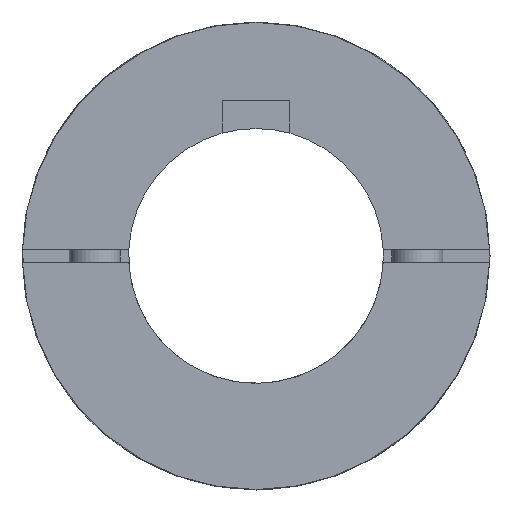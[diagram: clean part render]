
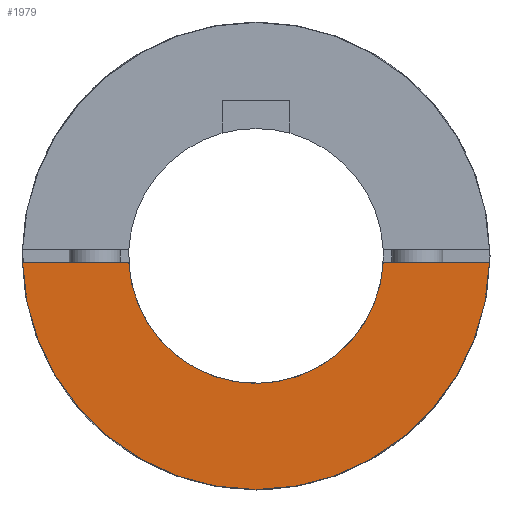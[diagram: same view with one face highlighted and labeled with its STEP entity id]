
A CAD part, left-side view. The second image highlights one B-rep face of the part: STEP entity #1979.
In plain terms, the highlighted planar face has unit normal (-1, 0, 0).
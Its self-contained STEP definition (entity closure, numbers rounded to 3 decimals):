
#47=PLANE('',#2240);
#197=LINE('',#3602,#340);
#209=LINE('',#3629,#352);
#340=VECTOR('',#2681,22.546);
#352=VECTOR('',#2713,22.546);
#523=FACE_OUTER_BOUND('',#657,.T.);
#657=EDGE_LOOP('',(#1694,#1695,#1696,#1697));
#846=CIRCLE('',#2204,15.);
#850=CIRCLE('',#2241,27.5);
#981=VERTEX_POINT('',#3557);
#982=VERTEX_POINT('',#3558);
#994=VERTEX_POINT('',#3600);
#999=VERTEX_POINT('',#3628);
#1214=EDGE_CURVE('',#981,#982,#846,.T.);
#1236=EDGE_CURVE('',#994,#982,#197,.T.);
#1250=EDGE_CURVE('',#999,#981,#209,.T.);
#1274=EDGE_CURVE('',#994,#999,#850,.T.);
#1694=ORIENTED_EDGE('',*,*,#1214,.T.);
#1695=ORIENTED_EDGE('',*,*,#1236,.F.);
#1696=ORIENTED_EDGE('',*,*,#1274,.T.);
#1697=ORIENTED_EDGE('',*,*,#1250,.T.);
#1979=ADVANCED_FACE('',(#523),#47,.T.);
#2204=AXIS2_PLACEMENT_3D('',#3559,#2639,#2640);
#2240=AXIS2_PLACEMENT_3D('',#3681,#2767,#2768);
#2241=AXIS2_PLACEMENT_3D('',#3682,#2769,#2770);
#2639=DIRECTION('center_axis',(1.,0.,0.));
#2640=DIRECTION('ref_axis',(0.,0.,1.));
#2681=DIRECTION('',(0.,-1.,0.));
#2713=DIRECTION('',(0.,1.,0.));
#2767=DIRECTION('center_axis',(-1.,0.,0.));
#2768=DIRECTION('ref_axis',(0.,-1.,0.));
#2769=DIRECTION('center_axis',(-1.,0.,0.));
#2770=DIRECTION('ref_axis',(0.,1.,0.));
#3557=CARTESIAN_POINT('',(0.,-14.981,-0.75));
#3558=CARTESIAN_POINT('',(0.,14.981,-0.75));
#3559=CARTESIAN_POINT('Origin',(0.,0.,0.));
#3600=CARTESIAN_POINT('',(0.,27.49,-0.75));
#3602=CARTESIAN_POINT('',(0.,27.49,-0.75));
#3628=CARTESIAN_POINT('',(0.,-27.49,-0.75));
#3629=CARTESIAN_POINT('',(0.,-27.49,-0.75));
#3681=CARTESIAN_POINT('Origin',(0.,0.,-5.));
#3682=CARTESIAN_POINT('Origin',(0.,0.,0.));
